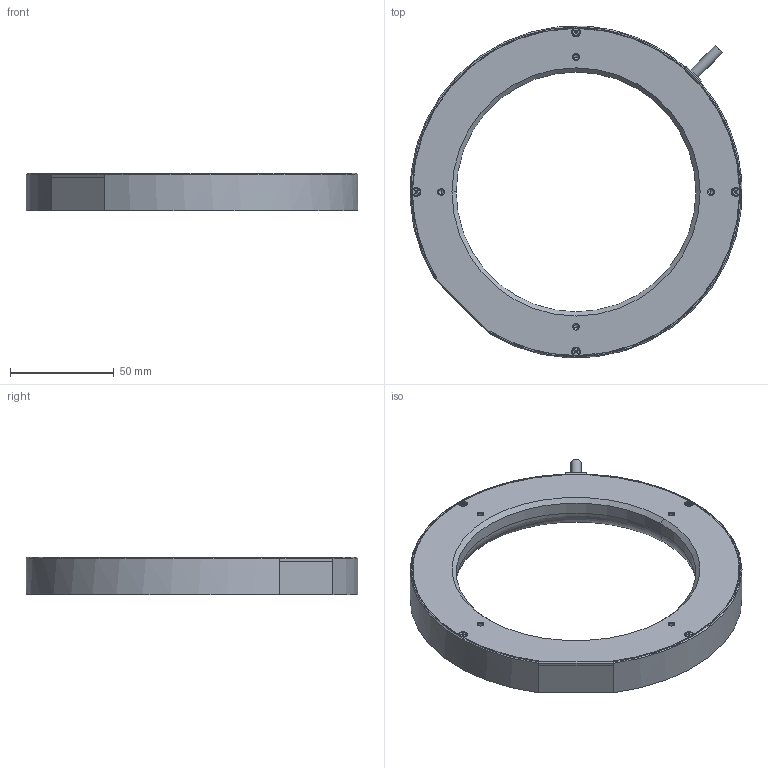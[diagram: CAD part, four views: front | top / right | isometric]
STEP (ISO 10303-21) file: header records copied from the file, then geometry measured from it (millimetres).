
FILE_DESCRIPTION((''),'2;1');
FILE_NAME('MV-LRSS-H-160-W','2022-09-02T17:16:56',('qiaoxuan5'),(''),'CREO PARAMETRIC BY PTC INC, 2020044','CREO PARAMETRIC BY PTC INC, 2020044','');
FILE_SCHEMA(('CONFIG_CONTROL_DESIGN'));
Length unit declared in the file: metre
Products named in the file (1): MV-LRSS-H-160-W
Bounding box: 159.82 x 159.82 x 18 mm (x, y, z)
Volume: 160820.1 mm3; surface area: 47265.2 mm2
Topology: 1 solids, 30 shells, 595 faces, 1423 edges, 841 vertices
Faces by surface type: plane 278, cylinder 179, cone 110, torus 22, sphere 6
Entity records: 17146 total; most frequent: CARTESIAN_POINT 3385, DIRECTION 2968, ORIENTED_EDGE 2762, EDGE_CURVE 1381, AXIS2_PLACEMENT_3D 1094, VERTEX_POINT 841, VECTOR 780, LINE 780
